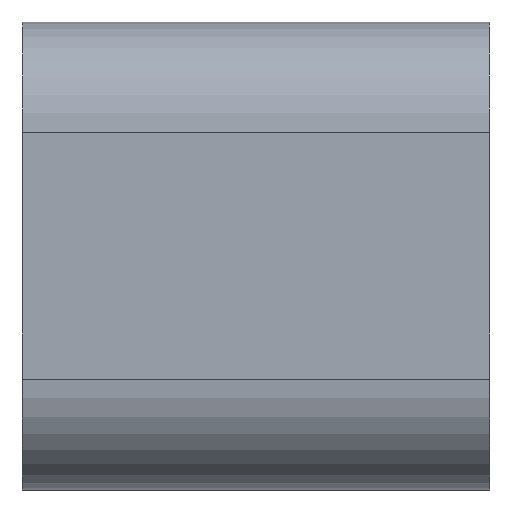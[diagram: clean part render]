
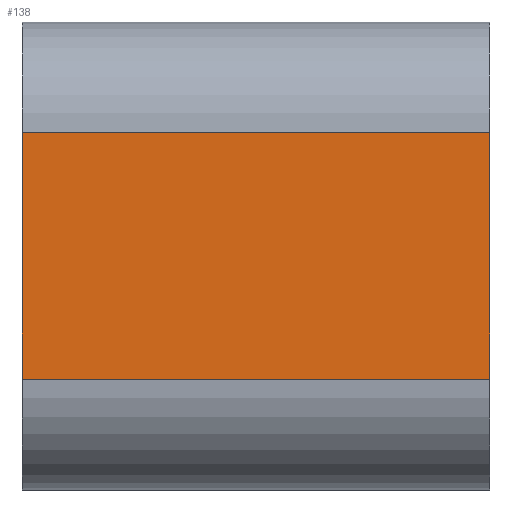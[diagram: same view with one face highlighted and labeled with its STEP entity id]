
A CAD part, top view. The second image highlights one B-rep face of the part: STEP entity #138.
In plain terms, the highlighted planar face has unit normal (0, 0, 1).
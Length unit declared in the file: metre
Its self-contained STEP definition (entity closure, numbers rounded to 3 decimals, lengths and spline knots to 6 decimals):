
#38=ORIENTED_EDGE('',*,*,#56,.T.);
#39=ORIENTED_EDGE('',*,*,#70,.T.);
#40=ORIENTED_EDGE('',*,*,#63,.T.);
#41=ORIENTED_EDGE('',*,*,#71,.T.);
#56=EDGE_CURVE('',#75,#74,#85,.T.);
#63=EDGE_CURVE('',#80,#81,#91,.T.);
#70=EDGE_CURVE('',#74,#80,#96,.T.);
#71=EDGE_CURVE('',#81,#75,#97,.T.);
#74=VERTEX_POINT('',#213);
#75=VERTEX_POINT('',#215);
#80=VERTEX_POINT('',#229);
#81=VERTEX_POINT('',#230);
#85=LINE('',#214,#99);
#91=LINE('',#228,#105);
#96=LINE('',#241,#110);
#97=LINE('',#242,#111);
#99=VECTOR('',#174,1.);
#105=VECTOR('',#186,1.);
#110=VECTOR('',#199,1.);
#111=VECTOR('',#200,1.);
#116=EDGE_LOOP('',(#38,#39,#40,#41));
#124=FACE_BOUND('',#116,.T.);
#132=PLANE('',#163);
#138=ADVANCED_FACE('',(#124),#132,.T.);
#163=AXIS2_PLACEMENT_3D('',#240,#197,#198);
#174=DIRECTION('',(0.,-1.,0.));
#186=DIRECTION('',(0.,1.,0.));
#197=DIRECTION('',(0.,0.,1.));
#198=DIRECTION('',(1.,0.,0.));
#199=DIRECTION('',(1.,0.,0.));
#200=DIRECTION('',(-1.,0.,0.));
#213=CARTESIAN_POINT('',(0.003048,-0.008971,0.002032));
#214=CARTESIAN_POINT('',(0.003048,-0.008001,0.002032));
#215=CARTESIAN_POINT('',(0.003048,-0.008301,0.002032));
#228=CARTESIAN_POINT('',(0.004318,-0.008001,0.002032));
#229=CARTESIAN_POINT('',(0.004318,-0.008971,0.002032));
#230=CARTESIAN_POINT('',(0.004318,-0.008301,0.002032));
#240=CARTESIAN_POINT('',(0.007366,0.,0.002032));
#241=CARTESIAN_POINT('',(0.004318,-0.008971,0.002032));
#242=CARTESIAN_POINT('',(0.003048,-0.008301,0.002032));
